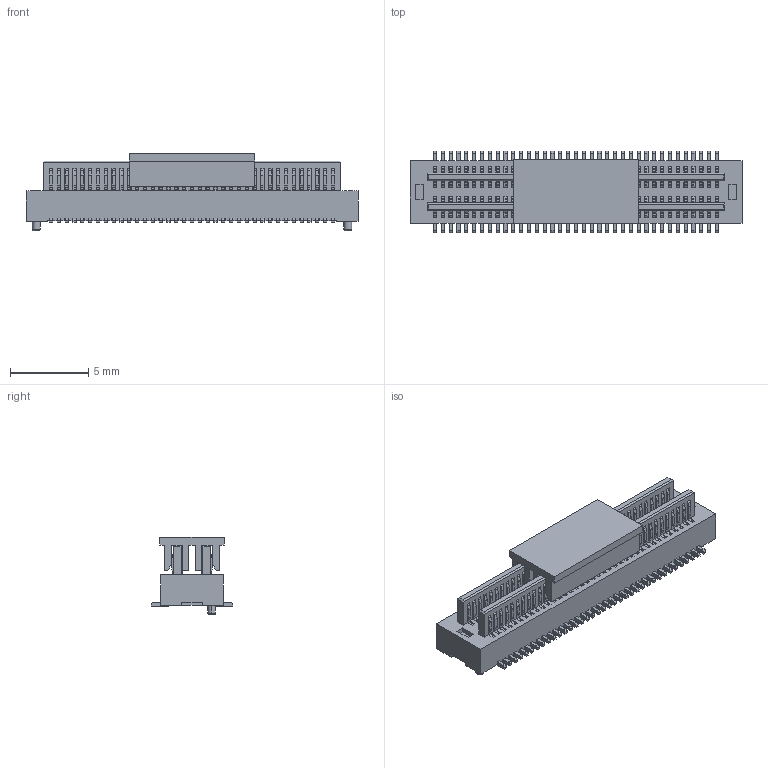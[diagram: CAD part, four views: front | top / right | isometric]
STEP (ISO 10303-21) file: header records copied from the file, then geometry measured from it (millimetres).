
FILE_DESCRIPTION(('CATIA V5 STEP Exchange'),'2;1');
FILE_NAME('F:\黄富鸿\板对板\PBB05\公座\H2.0\编带+盖\HC-PBB05-2-74-M-H2.0-G1-R-P-04（BTB0.5 双槽 公座 立贴 带柱 编带+盖）-HCTL.stp','2025-12-18T01:37:30+00:00',('none'),('none'),'CATIA Version 5 Release 20 GA (IN-10)','CATIA V5 STEP AP203','none');
FILE_SCHEMA(('CONFIG_CONTROL_DESIGN'));
Products named in the file (1): Part2
Bounding box: 21.2 x 5.2 x 4.95 mm (x, y, z)
Volume: 234.2 mm3; surface area: 1773.3 mm2
Topology: 76 solids, 76 shells, 4224 faces, 12926 edges, 8564 vertices
Faces by surface type: plane 2736, cylinder 1484, torus 4
Entity records: 123715 total; most frequent: ORIENTED_EDGE 25852, CARTESIAN_POINT 22964, DIRECTION 13800, EDGE_CURVE 12926, VECTOR 9654, LINE 9654, VERTEX_POINT 8564, EDGE_LOOP 4230
